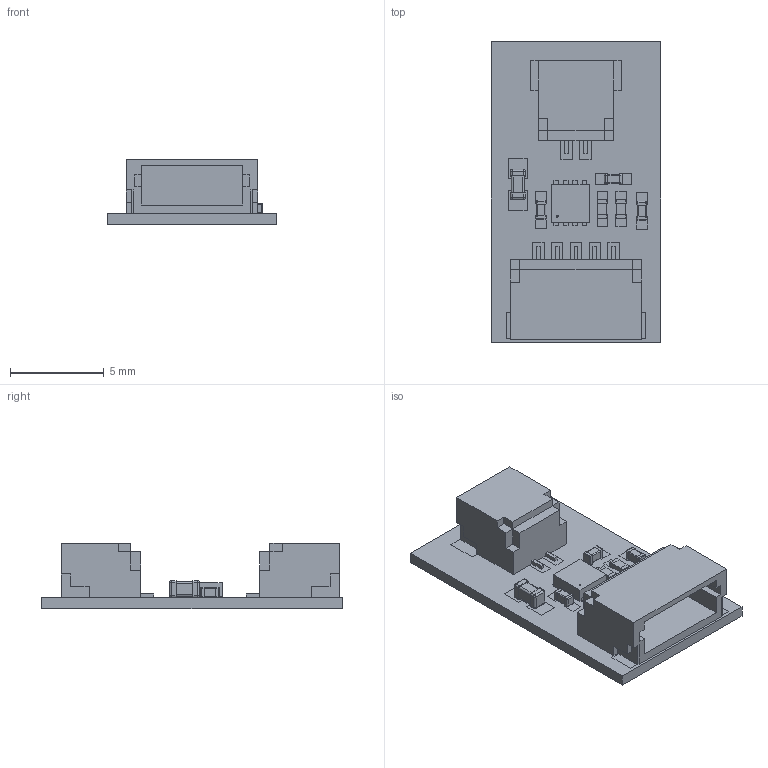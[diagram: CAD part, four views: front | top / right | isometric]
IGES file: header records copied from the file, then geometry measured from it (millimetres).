
Global section: file name: Filename.iges; native system: Open CASCADE 7.4; preprocessor: Open CASCADE IGES processor 7.4; date: 20200731.172636; units: millimetre
Bounding box: 9 x 16 x 3.5 mm (x, y, z)
Surface area: 1015.8 mm2 (no closed solid volume)
Topology: 0 solids, 0 shells, 702 faces, 3894 edges, 6070 vertices
Faces by surface type: plane 546, revolution 156
